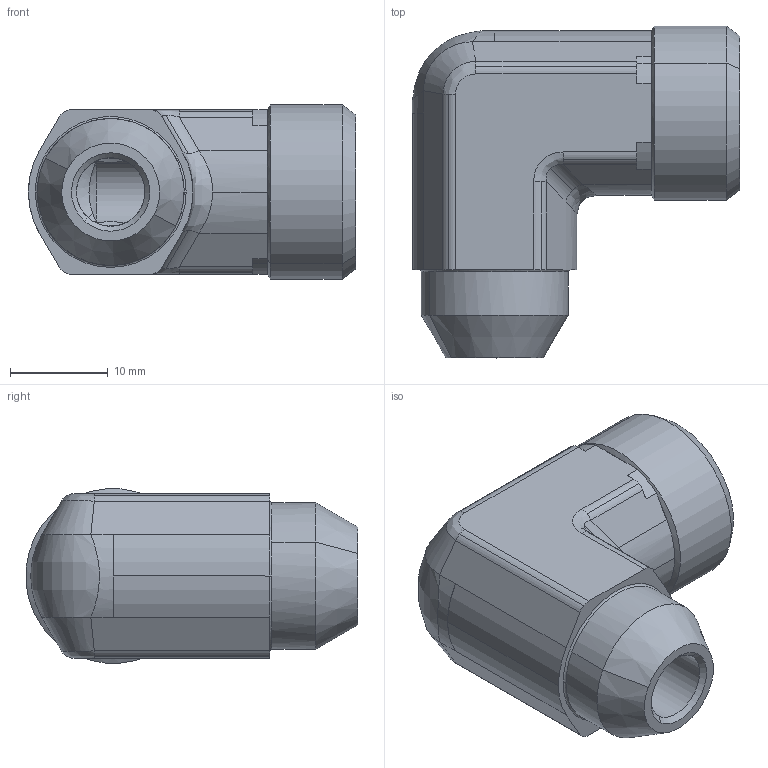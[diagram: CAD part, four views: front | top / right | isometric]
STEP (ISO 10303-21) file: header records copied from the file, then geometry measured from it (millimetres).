
FILE_DESCRIPTION((''),'2;1');
FILE_NAME('105816.stp','2007-10-31T14:41:53',(''),(''),'AutoCAD STEP 2000i','AutoCAD 2000i',', , ');
FILE_SCHEMA(('CONFIG_CONTROL_DESIGN'));
Length unit declared in the file: millimetre
Products named in the file (2): 105816.0; 3090#0
Assembly tree (1 placements, depth 2):
  105816.0
    3090#0
Bounding box: 33.4 x 33.89 x 17.79 mm (x, y, z)
Volume: 8705 mm3; surface area: 4088.2 mm2
Topology: 1 solids, 1 shells, 106 faces, 254 edges, 152 vertices
Faces by surface type: cylinder 48, plane 26, cone 18, bspline 14
Entity records: 3935 total; most frequent: CARTESIAN_POINT 1345, DIRECTION 556, ORIENTED_EDGE 508, EDGE_CURVE 254, AXIS2_PLACEMENT_3D 227, VERTEX_POINT 152, CIRCLE 114, EDGE_LOOP 110
